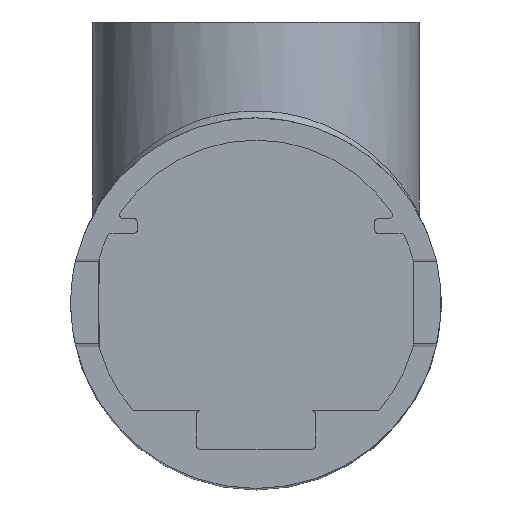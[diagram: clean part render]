
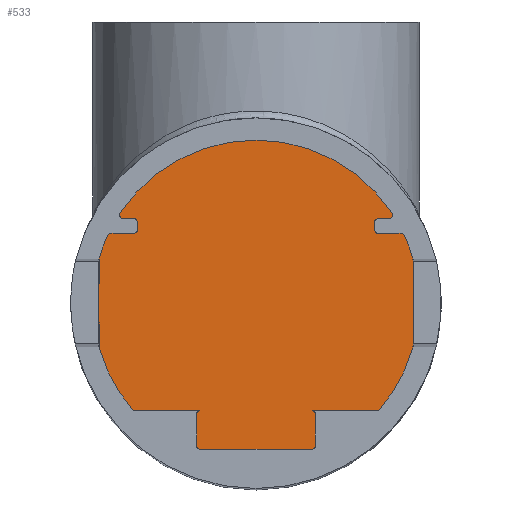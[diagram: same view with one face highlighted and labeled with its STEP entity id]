
A CAD part, top view. The second image highlights one B-rep face of the part: STEP entity #533.
In plain terms, the highlighted planar face has unit normal (0, 0, -1).
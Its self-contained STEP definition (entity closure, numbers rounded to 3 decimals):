
#44=CIRCLE('',#600,12.);
#45=CIRCLE('',#601,12.);
#72=FACE_OUTER_BOUND('',#93,.T.);
#93=EDGE_LOOP('',(#471,#472));
#270=VERTEX_POINT('',#1196);
#271=VERTEX_POINT('',#1197);
#357=EDGE_CURVE('',#270,#271,#44,.T.);
#358=EDGE_CURVE('',#271,#270,#45,.T.);
#471=ORIENTED_EDGE('',*,*,#357,.F.);
#472=ORIENTED_EDGE('',*,*,#358,.F.);
#498=PLANE('',#599);
#533=ADVANCED_FACE('',(#72),#498,.F.);
#599=AXIS2_PLACEMENT_3D('',#1195,#728,#729);
#600=AXIS2_PLACEMENT_3D('',#1198,#730,#731);
#601=AXIS2_PLACEMENT_3D('',#1199,#732,#733);
#728=DIRECTION('center_axis',(0.,0.,1.));
#729=DIRECTION('ref_axis',(1.,0.,0.));
#730=DIRECTION('center_axis',(0.,0.,1.));
#731=DIRECTION('ref_axis',(1.,0.,0.));
#732=DIRECTION('center_axis',(0.,0.,1.));
#733=DIRECTION('ref_axis',(1.,0.,0.));
#1195=CARTESIAN_POINT('Origin',(0.,0.,-30.));
#1196=CARTESIAN_POINT('',(-12.,0.,-30.));
#1197=CARTESIAN_POINT('',(12.,0.,-30.));
#1198=CARTESIAN_POINT('Origin',(0.,0.,-30.));
#1199=CARTESIAN_POINT('Origin',(0.,0.,-30.));
